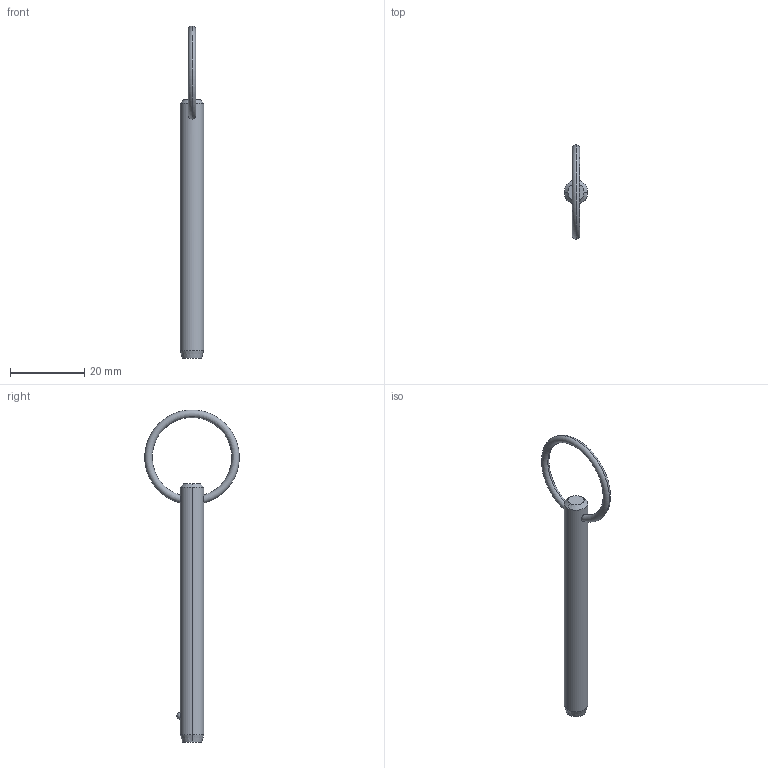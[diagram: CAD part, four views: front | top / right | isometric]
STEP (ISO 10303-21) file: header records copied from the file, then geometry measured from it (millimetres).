
FILE_DESCRIPTION (( 'STEP AP203' ), '1' );
FILE_NAME ('P1250.025-220.step', '2019-07-29T19:42:34', ( '' ), ( '' ), 'SwSTEP 2.0', 'SolidWorks 2017', '' );
FILE_SCHEMA (( 'CONFIG_CONTROL_DESIGN' ));
Length unit declared in the file: millimetre
Products named in the file (1): P1250.025-220
Bounding box: 6.35 x 25.38 x 89.22 mm (x, y, z)
Volume: 2391.5 mm3; surface area: 1841.8 mm2
Topology: 1 solids, 1 shells, 12 faces, 28 edges, 17 vertices
Faces by surface type: cone 4, torus 2, sphere 2, cylinder 2, plane 2
Entity records: 481 total; most frequent: CARTESIAN_POINT 148, DIRECTION 56, ORIENTED_EDGE 48, AXIS2_PLACEMENT_3D 25, EDGE_CURVE 24, VERTEX_POINT 15, EDGE_LOOP 15, CIRCLE 12
